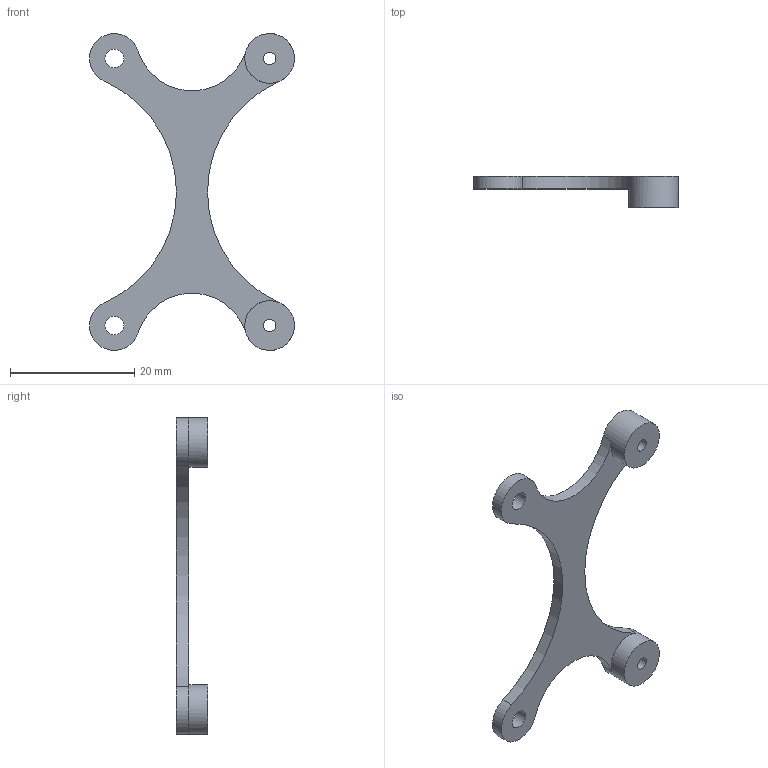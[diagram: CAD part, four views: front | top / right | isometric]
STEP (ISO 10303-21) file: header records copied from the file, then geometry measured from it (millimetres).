
FILE_DESCRIPTION(/* description */ ('STEP AP242','CAx-IF Rec.Pracs.---Representation and Presentation of Product Manufacturing Information (PMI)---4.0---2014-10-13','CAx-IF Rec.Pracs.---3D Tessellated Geometry---0.4---2014-09-14','2;1'),/* implementation_level */ '2;1');
FILE_NAME(/* name */ '679bad585e1bcc04624b9026',/* time_stamp */ '2025-01-30T16:48:25Z',/* author */ (''),/* organization */ (''),/* preprocessor_version */ 'ST-DEVELOPER v20',/* originating_system */ 'ONSHAPE BY PTC INC, 1.192',/* authorisation */ ' ');
FILE_SCHEMA (('AP242_MANAGED_MODEL_BASED_3D_ENGINEERING_MIM_LF { 1 0 10303 442 1 1 4 }'));
Length unit declared in the file: metre
Products named in the file (1): Part 1
Bounding box: 32.99 x 5 x 50.99 mm (x, y, z)
Volume: 1445 mm3; surface area: 1876.7 mm2
Topology: 1 solids, 1 shells, 20 faces, 48 edges, 32 vertices
Faces by surface type: cylinder 14, plane 6
Full cylindrical faces by diameter (mm): 2 x2, 3 x2, 4 x2, 8 x2
Entity records: 582 total; most frequent: DIRECTION 110, CARTESIAN_POINT 89, ORIENTED_EDGE 76, AXIS2_PLACEMENT_3D 51, EDGE_CURVE 38, EDGE_LOOP 38, FACE_BOUND 38, VERTEX_POINT 30
